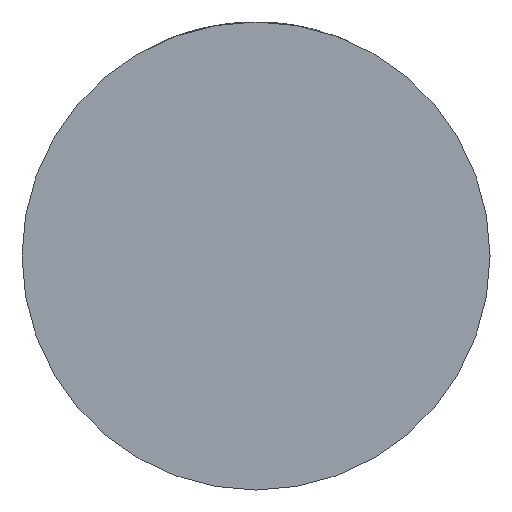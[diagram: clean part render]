
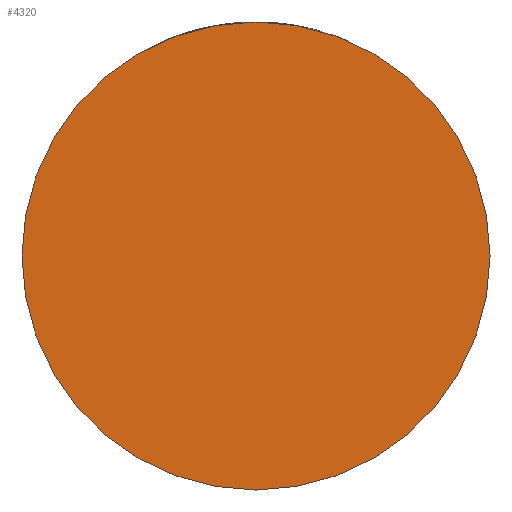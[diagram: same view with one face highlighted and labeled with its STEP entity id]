
A CAD part, front view. The second image highlights one B-rep face of the part: STEP entity #4320.
In plain terms, the highlighted planar face has unit normal (0, -1, 0).
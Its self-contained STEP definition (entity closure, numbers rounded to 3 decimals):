
#100 = EDGE_CURVE ( 'NONE', #278, #3062, #3583, .T. ) ;
#225 = CIRCLE ( 'NONE', #3582, 32. ) ;
#278 = VERTEX_POINT ( 'NONE', #3652 ) ;
#293 = DIRECTION ( 'NONE',  ( 0., -1., 0. ) ) ;
#526 = EDGE_LOOP ( 'NONE', ( #2279, #4177 ) ) ;
#617 = DIRECTION ( 'NONE',  ( 0., -1., 0. ) ) ;
#625 = FACE_OUTER_BOUND ( 'NONE', #526, .T. ) ;
#1002 = AXIS2_PLACEMENT_3D ( 'NONE', #2185, #1545, #3986 ) ;
#1545 = DIRECTION ( 'NONE',  ( 0., -1., 0. ) ) ;
#2185 = CARTESIAN_POINT ( 'NONE',  ( 0., -25., 0. ) ) ;
#2279 = ORIENTED_EDGE ( 'NONE', *, *, #3631, .T. ) ;
#2350 = CARTESIAN_POINT ( 'NONE',  ( -32., -25., 0. ) ) ;
#2644 = DIRECTION ( 'NONE',  ( 1., 0., 0. ) ) ;
#2797 = AXIS2_PLACEMENT_3D ( 'NONE', #3359, #293, #2644 ) ;
#3014 = DIRECTION ( 'NONE',  ( 1., 0., 0. ) ) ;
#3062 = VERTEX_POINT ( 'NONE', #2350 ) ;
#3359 = CARTESIAN_POINT ( 'NONE',  ( 0., -25., 0. ) ) ;
#3582 = AXIS2_PLACEMENT_3D ( 'NONE', #3963, #617, #3014 ) ;
#3583 = CIRCLE ( 'NONE', #1002, 32. ) ;
#3631 = EDGE_CURVE ( 'NONE', #3062, #278, #225, .T. ) ;
#3652 = CARTESIAN_POINT ( 'NONE',  ( 32., -25., 0. ) ) ;
#3963 = CARTESIAN_POINT ( 'NONE',  ( 0., -25., 0. ) ) ;
#3986 = DIRECTION ( 'NONE',  ( 1., 0., 0. ) ) ;
#4177 = ORIENTED_EDGE ( 'NONE', *, *, #100, .T. ) ;
#4320 = ADVANCED_FACE ( 'NONE', ( #625 ), #4352, .T. ) ;
#4352 = PLANE ( 'NONE',  #2797 ) ;
